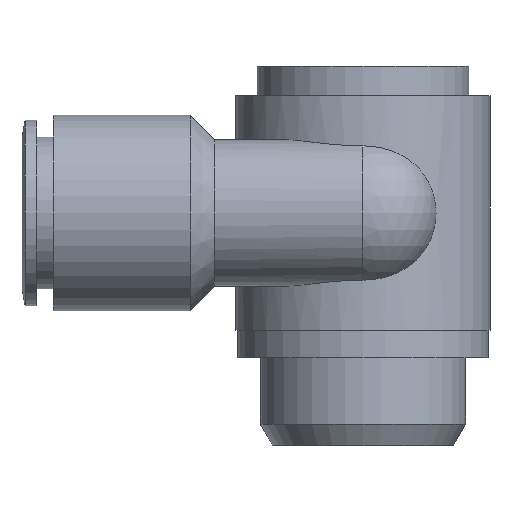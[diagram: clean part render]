
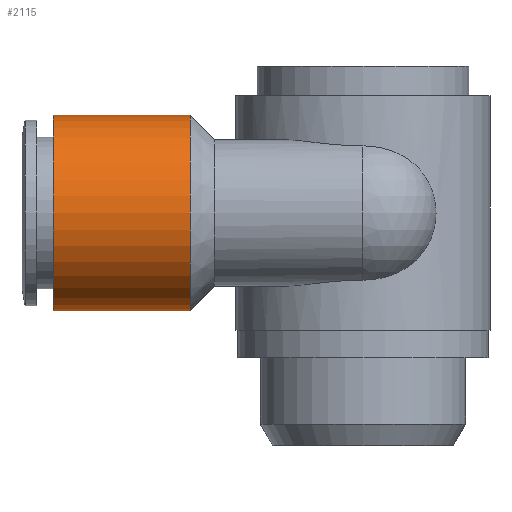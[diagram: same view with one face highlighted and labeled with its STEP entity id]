
A CAD part, left-side view. The second image highlights one B-rep face of the part: STEP entity #2115.
In plain terms, the highlighted cylindrical face has radius 10 mm (diameter 20 mm), a full revolution.
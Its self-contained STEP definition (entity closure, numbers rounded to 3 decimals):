
#1864=CARTESIAN_POINT('',(0.,17.7,0.0));
#1865=VERTEX_POINT('',#1864);
#1905=CARTESIAN_POINT('',(0.,31.7,0.0));
#1906=VERTEX_POINT('',#1905);
#1914=CARTESIAN_POINT('',(0.,31.7,0.0));
#1915=DIRECTION('',(0.0,-1.0,0.0));
#1916=VECTOR('',#1915,14.0);
#1917=LINE('',#1914,#1916);
#1918=EDGE_CURVE('',#1906,#1865,#1917,.T.);
#1921=CARTESIAN_POINT('',(0.,31.7,0.0));
#1922=DIRECTION('',(0.0,-1.0,0.0));
#1923=VECTOR('',#1922,14.0);
#1924=LINE('',#1921,#1923);
#1925=EDGE_CURVE('',#1906,#1865,#1924,.T.);
#2085=CARTESIAN_POINT('',(-10.,17.7,0.0));
#2086=DIRECTION('',(0.0,1.0,0.0));
#2087=DIRECTION('',(-1.0,0.0,0.0));
#2088=AXIS2_PLACEMENT_3D('',#2085,#2086,#2087);
#2089=CIRCLE('',#2088,10.);
#2090=EDGE_CURVE('',#1865,#1865,#2089,.T.);
#2098=CARTESIAN_POINT('',(-10.,24.7,0.0));
#2099=DIRECTION('',(0.,1.0,0.0));
#2100=DIRECTION('',(-1.0,0.0,0.0));
#2101=AXIS2_PLACEMENT_3D('',#2098,#2099,#2100);
#2102=CYLINDRICAL_SURFACE('',#2101,10.);
#2103=CARTESIAN_POINT('',(-10.,31.7,0.0));
#2104=DIRECTION('',(0.0,1.0,0.0));
#2105=DIRECTION('',(-1.0,0.0,0.0));
#2106=AXIS2_PLACEMENT_3D('',#2103,#2104,#2105);
#2107=CIRCLE('',#2106,10.);
#2108=EDGE_CURVE('',#1906,#1906,#2107,.T.);
#2109=ORIENTED_EDGE('',*,*,#2108,.F.);
#2110=ORIENTED_EDGE('',*,*,#1925,.T.);
#2111=ORIENTED_EDGE('',*,*,#2090,.T.);
#2112=ORIENTED_EDGE('',*,*,#1918,.F.);
#2113=EDGE_LOOP('',(#2109,#2110,#2111,#2112));
#2114=FACE_OUTER_BOUND('',#2113,.T.);
#2115=ADVANCED_FACE('',(#2114),#2102,.T.);
